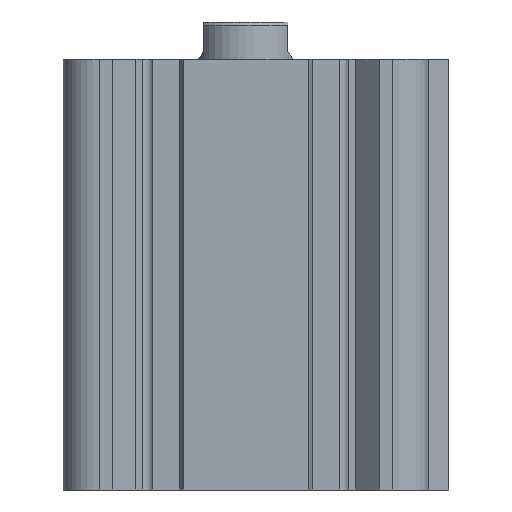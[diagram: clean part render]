
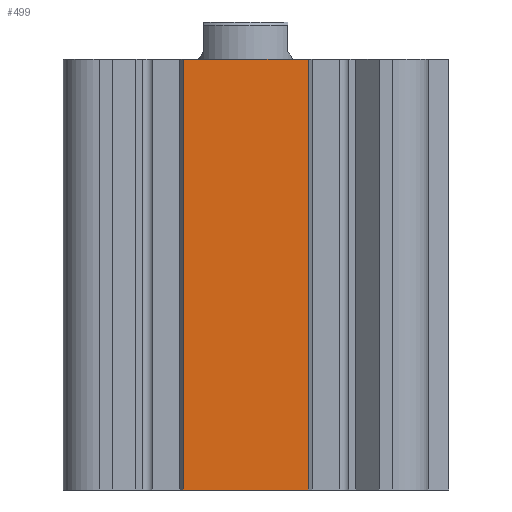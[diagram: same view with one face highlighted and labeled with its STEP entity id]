
A CAD part, front view. The second image highlights one B-rep face of the part: STEP entity #499.
In plain terms, the highlighted planar face has unit normal (0, -1, 0).
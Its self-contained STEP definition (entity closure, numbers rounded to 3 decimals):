
#499 = ADVANCED_FACE( '', ( #1054 ), #1055, .T. );
#1054 = FACE_OUTER_BOUND( '', #1604, .T. );
#1055 = PLANE( '', #1605 );
#1604 = EDGE_LOOP( '', ( #2790, #2791, #2792, #2793 ) );
#1605 = AXIS2_PLACEMENT_3D( '', #2794, #2795, #2796 );
#2790 = ORIENTED_EDGE( '', *, *, #3215, .F. );
#2791 = ORIENTED_EDGE( '', *, *, #3123, .F. );
#2792 = ORIENTED_EDGE( '', *, *, #3066, .T. );
#2793 = ORIENTED_EDGE( '', *, *, #3171, .T. );
#2794 = CARTESIAN_POINT( '', ( -20., -55.502, -138. ) );
#2795 = DIRECTION( '', ( 0., -1., 0. ) );
#2796 = DIRECTION( '', ( 0., 0., -1. ) );
#3066 = EDGE_CURVE( '', #3663, #3661, #3664, .T. );
#3123 = EDGE_CURVE( '', #3663, #3750, #3753, .T. );
#3171 = EDGE_CURVE( '', #3661, #3819, #3821, .T. );
#3215 = EDGE_CURVE( '', #3750, #3819, #3883, .T. );
#3661 = VERTEX_POINT( '', #4451 );
#3663 = VERTEX_POINT( '', #4454 );
#3664 = LINE( '', #4455, #4456 );
#3750 = VERTEX_POINT( '', #4570 );
#3753 = LINE( '', #4575, #4576 );
#3819 = VERTEX_POINT( '', #4662 );
#3821 = LINE( '', #4665, #4666 );
#3883 = LINE( '', #4749, #4750 );
#4451 = CARTESIAN_POINT( '', ( 20., -55.502, -138. ) );
#4454 = CARTESIAN_POINT( '', ( -20., -55.502, -138. ) );
#4455 = CARTESIAN_POINT( '', ( -20., -55.502, -138. ) );
#4456 = VECTOR( '', #5210, 1000. );
#4570 = CARTESIAN_POINT( '', ( -20., -55.502, 0. ) );
#4575 = CARTESIAN_POINT( '', ( -20., -55.502, -138. ) );
#4576 = VECTOR( '', #5283, 1000. );
#4662 = CARTESIAN_POINT( '', ( 20., -55.502, 0. ) );
#4665 = CARTESIAN_POINT( '', ( 20., -55.502, -138. ) );
#4666 = VECTOR( '', #5332, 1000. );
#4749 = CARTESIAN_POINT( '', ( -20., -55.502, 0. ) );
#4750 = VECTOR( '', #5387, 1000. );
#5210 = DIRECTION( '', ( 1., 0., 0. ) );
#5283 = DIRECTION( '', ( 0., 0., 1. ) );
#5332 = DIRECTION( '', ( 0., 0., 1. ) );
#5387 = DIRECTION( '', ( 1., 0., 0. ) );
